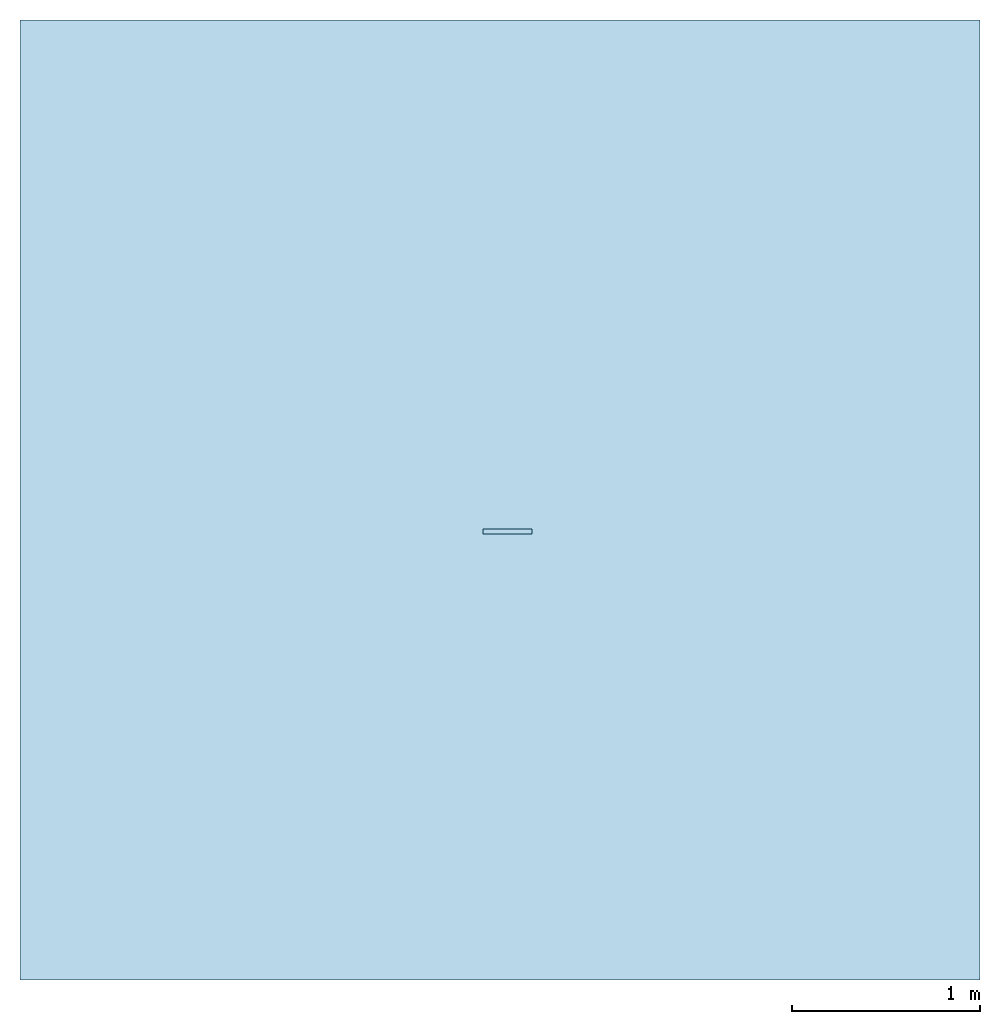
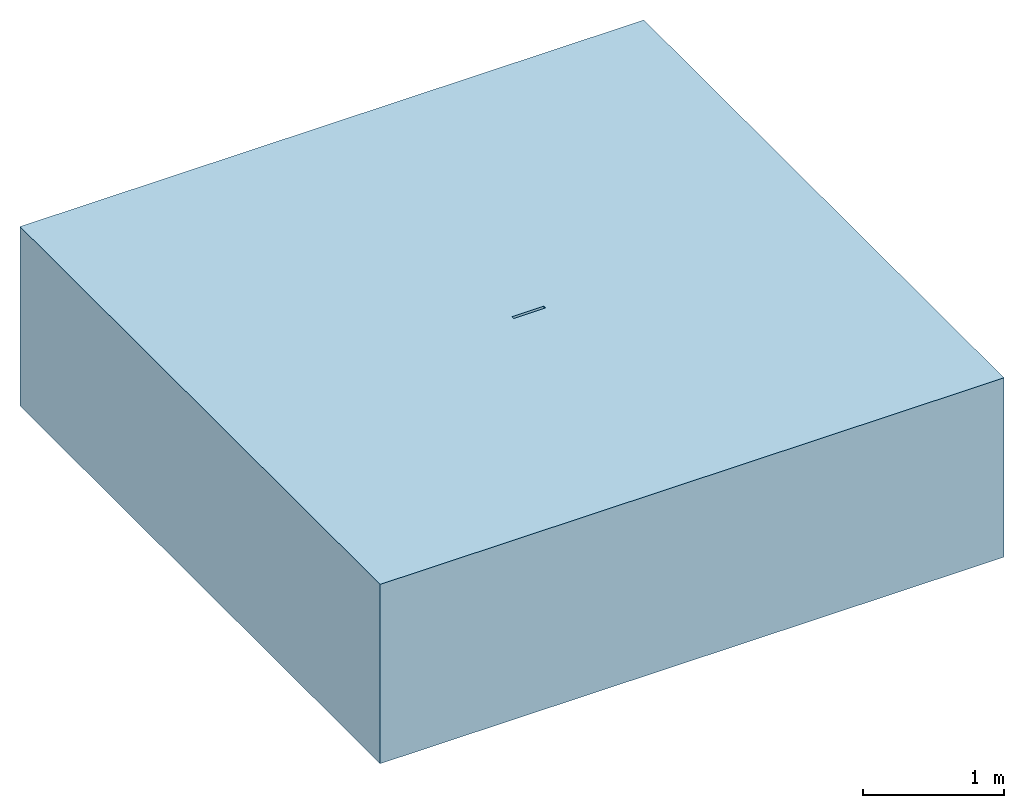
# One storey: 1 slab, 1 opening.
"""IFC2X3 building model written with IfcOpenShell, lengths in millimetres."""

from ifc_helpers import new_model, entity, si_unit, converted_unit, direction, frame, frame_2d, origin, place, context, subcontext, project, spatial, rectangle, extrude, faceted_brep, material, layer, layer_set, layer_usage, element, save


model = new_model("IFC2X3")

# Units and contexts
model_context = context("Model", 3, precision=1e-06, world=origin(), true_north=direction((2.0, 6.12303176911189e-17, 1.0)))
context_of_model = context(None, 3, precision=1e-06, world=origin(), true_north=direction((2.0, 6.12303176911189e-17, 1.0)))
body_context = subcontext(model_context, "Body", "Model", "MODEL_VIEW")
ifc_project = project(units=[si_unit("LENGTHUNIT", "METRE", prefix="MILLI"), si_unit("AREAUNIT", "SQUARE_METRE", prefix="MILLI"), si_unit("VOLUMEUNIT", "CUBIC_METRE", prefix="MILLI"), converted_unit("PLANEANGLEUNIT", "DEGREE", entity("IfcRatioMeasure", 0.0174532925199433), si_unit("PLANEANGLEUNIT", "RADIAN"), dimensions=[0, 0, 0, 0, 0, 0, 0]), si_unit("TIMEUNIT", "SECOND")], contexts=[model_context, context_of_model])

# Site, building, storey
site_placement = place(None, origin())
site = spatial("IfcSite", under=ifc_project, at=site_placement, Name="Default", CompositionType="ELEMENT")
building_placement = place(site_placement, origin())
building = spatial("IfcBuilding", under=site, at=building_placement, CompositionType="ELEMENT")
storey_placement = place(building_placement, frame((0.0, 0.0, -4300.0)))
storey = spatial("IfcBuildingStorey", under=building, at=storey_placement, Name="T.O. Footing", CompositionType="ELEMENT", Elevation=-4300.0)

# Slab, opening
ifc_material_1 = material(Name="Grass")
ifc_layer_1 = layer(ifc_material_1, 50.0)
ifc_material_2 = material(Name="Earth")
ifc_layer_2 = layer(ifc_material_2, 1500.0)
ifc_layer_set = layer_set([ifc_layer_1, ifc_layer_2], Name="Floor:Generic Floor - 400mm")
ifc_layer_usage = layer_usage(ifc_layer_set, "AXIS3", "POSITIVE", 0.0)
slab_placement = place(storey_placement, frame((-74285.1443120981, 26316.7493510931, -1550.0)))
slab = element("IfcSlab", 1, at=slab_placement, inside=storey, material=ifc_layer_usage, Name="Floor:Generic Floor - 400mm", ObjectType="Floor:Generic Floor - 400mm", PredefinedType="FLOOR", context=body_context, shape_type="SweptSolid", body=[
    extrude(rectangle(XDim=5100.0, YDim=5100.0, at=frame_2d((0.0, 0.0), x_axis=(0.0, -1.0))), frame((2550.0, 2550.0, 1550.0), z_axis=(0.0, 0.0, -1.0), x_axis=(-1.0, 0.0, 0.0)), (0.0, 0.0, 1.0), 1550.0),
])
opening_placement = place(slab_placement, frame((2460.16673981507, 2369.75893820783, 1150.0)))
element("IfcOpeningElement", 2, at=opening_placement, cuts=slab, ObjectType="Recess", context=body_context, shape_type="Brep", body=[
    faceted_brep([(0.0, 25.0, 0.0), (260.0, 0.0, 0.0), (260.0, 25.0, 0.0), (0.0, 0.0, 0.0), (260.0, 25.0, 400.0), (0.0, 0.0, 400.0), (0.0, 25.0, 400.0), (260.0, 0.0, 400.0), (150.187868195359, 25.0, 176.342082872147), (168.999966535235, 25.0, 168.54985660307), (185.154281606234, 25.0, 156.154214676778), (130.0, 25.0, 178.999866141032), (205.342149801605, 25.0, 121.187801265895), (207.999933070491, 25.0, 100.999933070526), (197.549923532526, 25.0, 139.999899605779), (109.812131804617, 25.0, 176.342082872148), (91.0000334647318, 25.0, 168.549856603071), (74.8457183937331, 25.0, 156.154214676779), (54.6578501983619, 25.0, 121.187801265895), (62.4500764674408, 25.0, 139.99989960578), (205.342149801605, 25.0, 80.8120648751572), (197.549923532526, 25.0, 61.9999665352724), (185.154281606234, 25.0, 45.8456514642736), (150.18786819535, 25.0, 25.6577832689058), (168.999966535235, 25.0, 33.4500095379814), (130.0, 25.0, 23.0), (62.4500764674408, 25.0, 61.9999665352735), (54.6578501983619, 25.0, 80.8120648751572), (52.0000669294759, 25.0, 100.999933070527), (109.812131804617, 25.0, 25.6577832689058), (91.0000334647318, 25.0, 33.4500095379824), (74.8457183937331, 25.0, 45.8456514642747), (130.0, 150.0, 178.999866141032), (168.999966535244, 150.0, 33.4500095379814), (150.187868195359, 150.0, 176.342082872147), (168.999966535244, 150.0, 168.54985660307), (185.154281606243, 150.0, 156.154214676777), (197.549923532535, 150.0, 61.9999665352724), (197.549923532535, 150.0, 139.999899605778), (109.812131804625, 150.0, 176.342082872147), (109.812131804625, 150.0, 25.6577832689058), (62.4500764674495, 150.0, 139.99989960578), (74.8457183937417, 150.0, 45.8456514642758), (74.8457183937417, 150.0, 156.154214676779), (91.0000334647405, 150.0, 168.549856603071), (52.0000669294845, 150.0, 100.999933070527), (54.6578501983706, 150.0, 80.8120648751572), (54.6578501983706, 150.0, 121.187801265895), (205.342149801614, 150.0, 80.8120648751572), (205.342149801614, 150.0, 121.187801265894), (185.154281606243, 150.0, 45.8456514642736), (130.0, 150.0, 23.0), (150.187868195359, 150.0, 25.6577832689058), (62.4500764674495, 150.0, 61.9999665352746), (91.0000334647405, 150.0, 33.4500095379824), (207.9999330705, 150.0, 100.999933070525)], [[[0, 1, 2]], [[1, 0, 3]], [[4, 5, 6]], [[5, 4, 7]], [[3, 5, 7]], [[7, 1, 3]], [[1, 7, 4]], [[4, 2, 1]], [[8, 9, 4]], [[10, 4, 9]], [[11, 8, 4]], [[12, 13, 2]], [[4, 10, 14]], [[4, 14, 12]], [[2, 4, 12]], [[15, 11, 6]], [[4, 6, 11]], [[16, 15, 6]], [[6, 17, 16]], [[6, 18, 19]], [[6, 19, 17]], [[0, 18, 6]], [[2, 20, 21]], [[2, 21, 22]], [[23, 2, 24]], [[22, 24, 2]], [[2, 23, 25]], [[25, 0, 2]], [[2, 13, 20]], [[0, 26, 27]], [[0, 27, 28]], [[0, 29, 30]], [[26, 0, 31]], [[30, 31, 0]], [[0, 25, 29]], [[18, 0, 28]], [[0, 6, 5]], [[5, 3, 0]], [[32, 33, 34]], [[34, 33, 35]], [[36, 37, 38]], [[33, 36, 35]], [[39, 40, 32]], [[41, 42, 43]], [[39, 44, 40]], [[45, 46, 47]], [[44, 43, 42]], [[46, 41, 47]], [[38, 48, 49]], [[38, 37, 48]], [[37, 36, 50]], [[51, 33, 32]], [[33, 50, 36]], [[52, 33, 51]], [[53, 42, 41]], [[53, 41, 46]], [[42, 54, 44]], [[40, 44, 54]], [[51, 32, 40]], [[55, 49, 48]], [[38, 49, 12]], [[38, 14, 36]], [[34, 35, 9]], [[10, 35, 36]], [[32, 34, 8]], [[55, 13, 49]], [[13, 12, 49]], [[12, 14, 38]], [[14, 10, 36]], [[35, 10, 9]], [[9, 8, 34]], [[8, 11, 32]], [[44, 39, 15]], [[44, 16, 43]], [[47, 41, 19]], [[17, 41, 43]], [[45, 47, 18]], [[11, 15, 39]], [[15, 16, 44]], [[16, 17, 43]], [[17, 19, 41]], [[47, 19, 18]], [[18, 28, 45]], [[32, 11, 39]], [[53, 46, 27]], [[53, 26, 42]], [[40, 54, 30]], [[31, 54, 42]], [[51, 40, 29]], [[45, 28, 46]], [[28, 27, 46]], [[27, 26, 53]], [[26, 31, 42]], [[54, 31, 30]], [[30, 29, 40]], [[29, 25, 51]], [[33, 52, 23]], [[33, 24, 50]], [[48, 37, 21]], [[22, 37, 50]], [[55, 48, 20]], [[25, 23, 52]], [[23, 24, 33]], [[24, 22, 50]], [[22, 21, 37]], [[48, 21, 20]], [[20, 13, 55]], [[51, 25, 52]]]),
])

save(model, "model.ifc")
